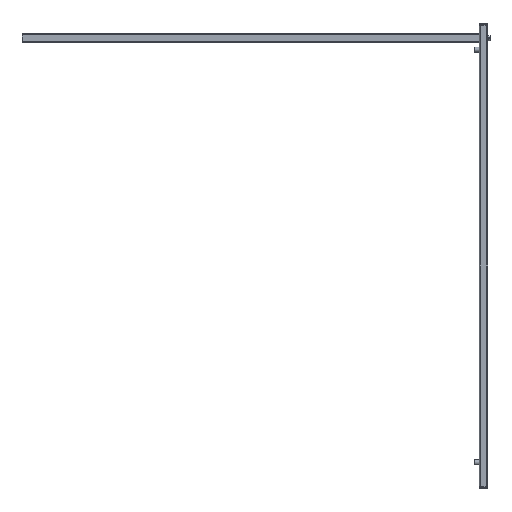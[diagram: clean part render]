
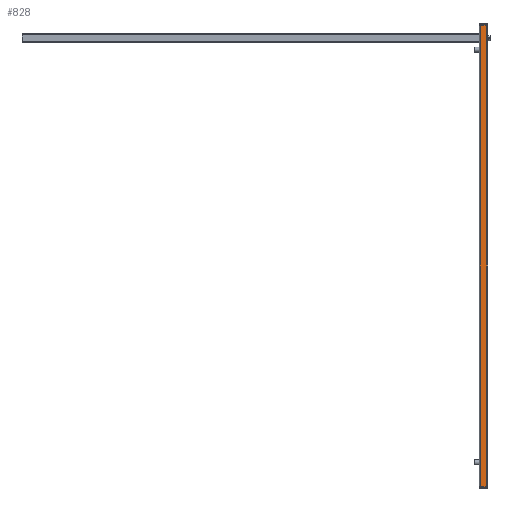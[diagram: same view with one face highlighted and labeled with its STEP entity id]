
A CAD part, left-side view. The second image highlights one B-rep face of the part: STEP entity #828.
In plain terms, the highlighted planar face has unit normal (-1, 0, 0) as drawn and (0, 0, -1) by its records, which use the part's own axes.
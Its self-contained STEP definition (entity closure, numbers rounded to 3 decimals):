
#828 = ADVANCED_FACE( '', ( #1758 ), #1759, .T. );
#1758 = FACE_OUTER_BOUND( '', #2804, .T. );
#1759 = PLANE( '', #2805 );
#2804 = EDGE_LOOP( '', ( #5284, #5285, #5286, #5287 ) );
#2805 = AXIS2_PLACEMENT_3D( '', #5288, #5289, #5290 );
#5284 = ORIENTED_EDGE( '', *, *, #6143, .F. );
#5285 = ORIENTED_EDGE( '', *, *, #6806, .T. );
#5286 = ORIENTED_EDGE( '', *, *, #6980, .T. );
#5287 = ORIENTED_EDGE( '', *, *, #6981, .T. );
#5288 = CARTESIAN_POINT( '', ( -15., 1626., -15. ) );
#5289 = DIRECTION( '', ( 0., 0., -1. ) );
#5290 = DIRECTION( '', ( -1., 0., 0. ) );
#6143 = EDGE_CURVE( '', #7412, #7414, #7415, .T. );
#6806 = EDGE_CURVE( '', #7412, #8449, #8451, .F. );
#6980 = EDGE_CURVE( '', #8449, #8663, #8664, .T. );
#6981 = EDGE_CURVE( '', #8663, #7414, #8665, .T. );
#7412 = VERTEX_POINT( '', #9214 );
#7414 = VERTEX_POINT( '', #9216 );
#7415 = LINE( '', #9217, #9218 );
#8449 = VERTEX_POINT( '', #10590 );
#8451 = LINE( '', #10592, #10593 );
#8663 = VERTEX_POINT( '', #10873 );
#8664 = LINE( '', #10874, #10875 );
#8665 = LINE( '', #10876, #10877 );
#9214 = CARTESIAN_POINT( '', ( -12., 0., -15. ) );
#9216 = CARTESIAN_POINT( '', ( 12., 0., -15. ) );
#9217 = CARTESIAN_POINT( '', ( -15., 0., -15. ) );
#9218 = VECTOR( '', #11251, 1000. );
#10590 = CARTESIAN_POINT( '', ( -12., 1626., -15. ) );
#10592 = CARTESIAN_POINT( '', ( -12., 1626., -15. ) );
#10593 = VECTOR( '', #12160, 1000. );
#10873 = CARTESIAN_POINT( '', ( 12., 1626., -15. ) );
#10874 = CARTESIAN_POINT( '', ( -15., 1626., -15. ) );
#10875 = VECTOR( '', #12337, 1000. );
#10876 = CARTESIAN_POINT( '', ( 12., 1626., -15. ) );
#10877 = VECTOR( '', #12338, 1000. );
#11251 = DIRECTION( '', ( 1., 0., 0. ) );
#12160 = DIRECTION( '', ( 0., -1., 0. ) );
#12337 = DIRECTION( '', ( 1., 0., 0. ) );
#12338 = DIRECTION( '', ( 0., -1., 0. ) );
